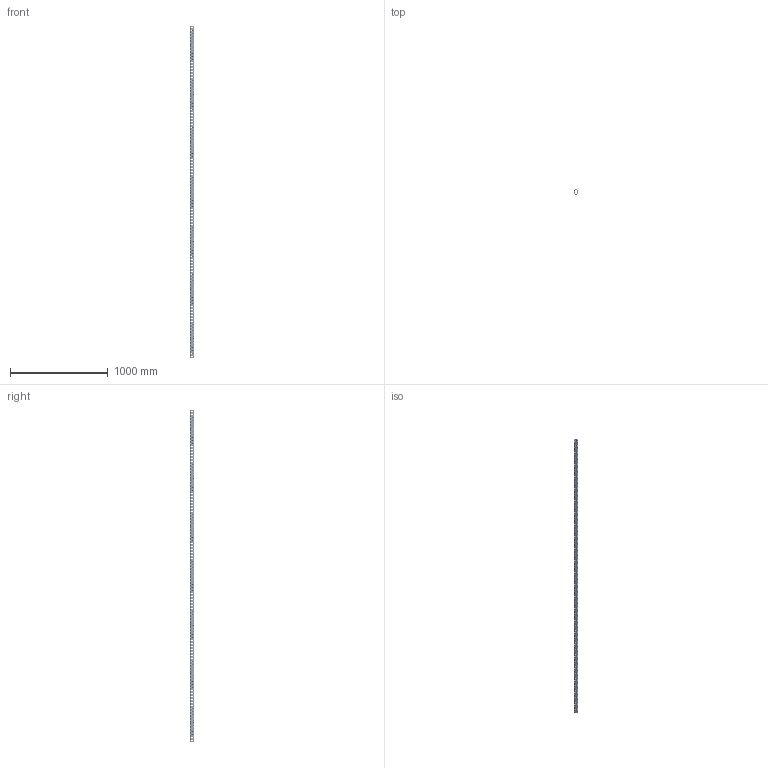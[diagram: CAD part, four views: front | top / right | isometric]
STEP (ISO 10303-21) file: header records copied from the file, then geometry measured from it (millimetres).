
FILE_DESCRIPTION(('CATIA V5 STEP Exchange'),'2;1');
FILE_NAME('U:\Room\唐宝山\EGT002\46-01-010342-01-EGT002-3388.stp','2021-08-24T07:34:18+00:00',('none'),('none'),'CATIA Version 5 Release 21 GA (IN-10)','CATIA V5 STEP AP203','none');
FILE_SCHEMA(('CONFIG_CONTROL_DESIGN'));
Products named in the file (1): 46-01-010342-01-EGT002-3388
Bounding box: 50 x 50 x 3388 mm (x, y, z)
Volume: 2414103.8 mm3; surface area: 1162621.2 mm2
Topology: 1 solids, 1 shells, 4604 faces, 12676 edges, 7848 vertices
Faces by surface type: cone 2712, cylinder 1866, plane 26
Entity records: 195790 total; most frequent: CARTESIAN_POINT 85049, ORIENTED_EDGE 25352, DIRECTION 17580, EDGE_CURVE 12676, AXIS2_PLACEMENT_3D 8101, VERTEX_POINT 7848, EDGE_LOOP 6188, VECTOR 4876
